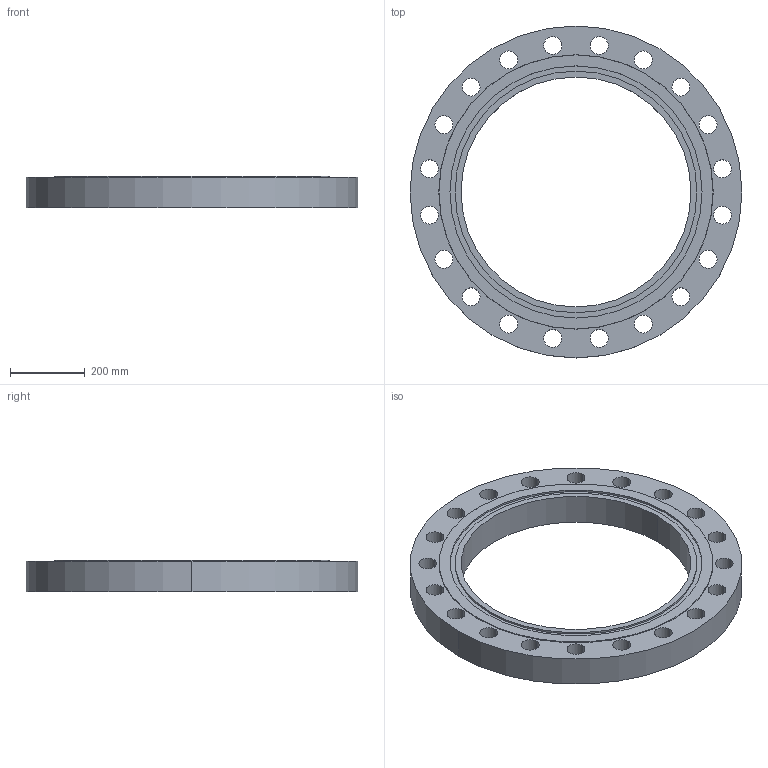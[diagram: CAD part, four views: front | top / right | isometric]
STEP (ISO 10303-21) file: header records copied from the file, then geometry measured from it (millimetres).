
FILE_DESCRIPTION (( 'STEP AP214' ), '1' );
FILE_NAME ('PN40 DN600 Type 01 - Type D Face.STEP', '2018-12-28T23:40:19', ( '' ), ( '' ), 'SwSTEP 2.0', 'SolidWorks 2019', '' );
FILE_SCHEMA (( 'AUTOMOTIVE_DESIGN' ));
Length unit declared in the file: millimetre
Products named in the file (1): PN40 DN600 Type 01 - Type D Face
Bounding box: 890 x 890 x 84 mm (x, y, z)
Volume: 23674805.2 mm3; surface area: 1238773.8 mm2
Topology: 1 solids, 1 shells, 55 faces, 150 edges, 100 vertices
Faces by surface type: cylinder 48, plane 5, cone 2
Entity records: 1922 total; most frequent: DIRECTION 362, CARTESIAN_POINT 306, ORIENTED_EDGE 300, AXIS2_PLACEMENT_3D 156, EDGE_CURVE 150, CIRCLE 100, EDGE_LOOP 100, VERTEX_POINT 100
